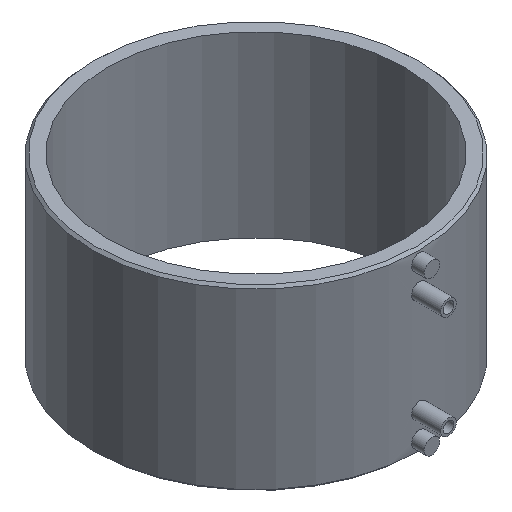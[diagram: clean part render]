
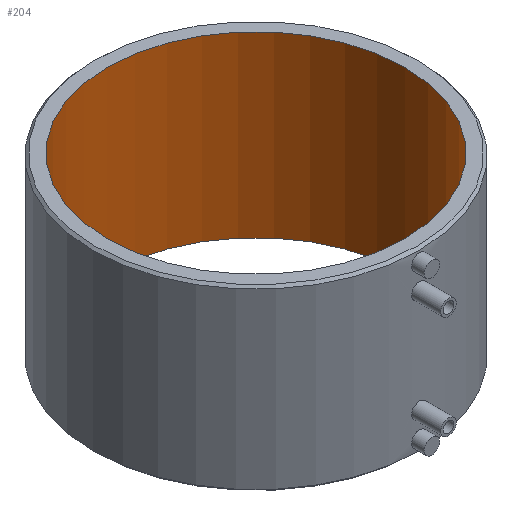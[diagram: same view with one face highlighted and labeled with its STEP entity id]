
A CAD part, isometric view. The second image highlights one B-rep face of the part: STEP entity #204.
In plain terms, the highlighted cylindrical face has radius 125 mm (diameter 250 mm), a full revolution.
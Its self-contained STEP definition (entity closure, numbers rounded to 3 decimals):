
#30=CYLINDRICAL_SURFACE($,#235,125.);
#54=FACE_BOUND($,#98,.T.);
#64=FACE_OUTER_BOUND($,#97,.T.);
#97=EDGE_LOOP($,(#181));
#98=EDGE_LOOP($,(#182));
#110=CIRCLE($,#220,125.);
#112=CIRCLE($,#224,125.);
#126=VERTEX_POINT($,#456);
#128=VERTEX_POINT($,#462);
#144=EDGE_CURVE($,#126,#126,#110,.T.);
#146=EDGE_CURVE($,#128,#128,#112,.T.);
#181=ORIENTED_EDGE($,*,*,#144,.F.);
#182=ORIENTED_EDGE($,*,*,#146,.F.);
#204=ADVANCED_FACE($,(#64,#54),#30,.F.);
#220=AXIS2_PLACEMENT_3D($,#457,#258,#259);
#224=AXIS2_PLACEMENT_3D($,#463,#266,#267);
#235=AXIS2_PLACEMENT_3D($,#548,#288,#289);
#258=DIRECTION('center_axis',(0.,0.,1.));
#259=DIRECTION('ref_axis',(-1.,0.,0.));
#266=DIRECTION('center_axis',(0.,0.,-1.));
#267=DIRECTION('ref_axis',(-1.,0.,0.));
#288=DIRECTION('center_axis',(0.,0.,1.));
#289=DIRECTION('ref_axis',(-1.,0.,0.));
#456=CARTESIAN_POINT('',(125.,0.,-75.));
#457=CARTESIAN_POINT('Origin',(0.,0.,-75.));
#462=CARTESIAN_POINT('',(125.,0.,75.));
#463=CARTESIAN_POINT('Origin',(0.,0.,75.));
#548=CARTESIAN_POINT('Origin',(0.,0.,0.));
